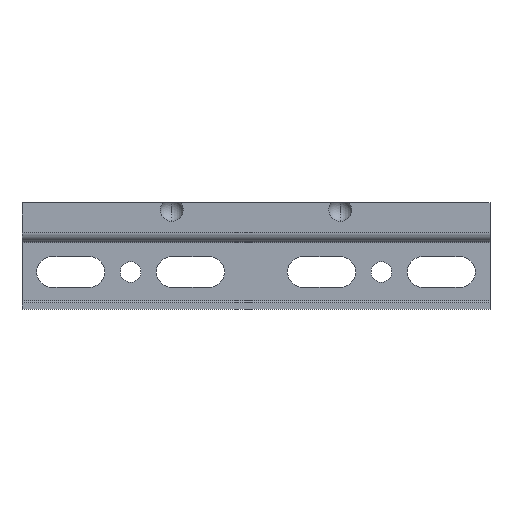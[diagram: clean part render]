
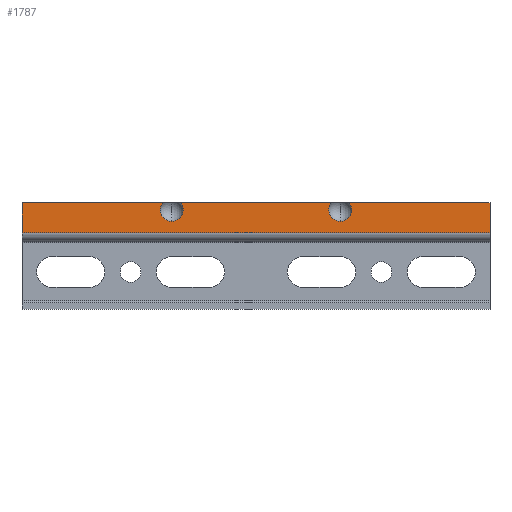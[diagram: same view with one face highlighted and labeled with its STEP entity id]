
A CAD part, top view. The second image highlights one B-rep face of the part: STEP entity #1787.
In plain terms, the highlighted planar face has unit normal (0, 0, 1).
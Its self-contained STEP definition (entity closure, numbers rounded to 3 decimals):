
#207 = CARTESIAN_POINT ( 'NONE',  ( -20.211, 28.5, 0.5 ) ) ;
#211 = CARTESIAN_POINT ( 'NONE',  ( -22.5, 23.46, 0.5 ) ) ;
#246 = CARTESIAN_POINT ( 'NONE',  ( 62.5, 28.5, 0.5 ) ) ;
#248 = CARTESIAN_POINT ( 'NONE',  ( 20.211, 28.5, 0.5 ) ) ;
#250 = CARTESIAN_POINT ( 'NONE',  ( -62.5, 20.5, 0.5 ) ) ;
#256 = CARTESIAN_POINT ( 'NONE',  ( 62.5, 20.5, 0.5 ) ) ;
#288 = CARTESIAN_POINT ( 'NONE',  ( -24.789, 28.5, 0.5 ) ) ;
#294 = EDGE_LOOP ( 'NONE', ( #729, #728, #727, #726, #725, #724, #723, #722, #721, #720 ) ) ;
#299 = CARTESIAN_POINT ( 'NONE',  ( -62.5, 28.5, 0.5 ) ) ;
#429 = VERTEX_POINT ( 'NONE', #299 ) ;
#438 = VERTEX_POINT ( 'NONE', #288 ) ;
#460 = VERTEX_POINT ( 'NONE', #256 ) ;
#465 = VERTEX_POINT ( 'NONE', #250 ) ;
#467 = VERTEX_POINT ( 'NONE', #248 ) ;
#469 = VERTEX_POINT ( 'NONE', #246 ) ;
#536 = VERTEX_POINT ( 'NONE', #211 ) ;
#538 = VERTEX_POINT ( 'NONE', #207 ) ;
#547 = VERTEX_POINT ( 'NONE', #1667 ) ;
#549 = VERTEX_POINT ( 'NONE', #1664 ) ;
#720 = ORIENTED_EDGE ( 'NONE', *, *, #916, .T. ) ;
#721 = ORIENTED_EDGE ( 'NONE', *, *, #1601, .T. ) ;
#722 = ORIENTED_EDGE ( 'NONE', *, *, #766, .T. ) ;
#723 = ORIENTED_EDGE ( 'NONE', *, *, #915, .F. ) ;
#724 = ORIENTED_EDGE ( 'NONE', *, *, #914, .F. ) ;
#725 = ORIENTED_EDGE ( 'NONE', *, *, #1767, .T. ) ;
#726 = ORIENTED_EDGE ( 'NONE', *, *, #911, .T. ) ;
#727 = ORIENTED_EDGE ( 'NONE', *, *, #913, .T. ) ;
#728 = ORIENTED_EDGE ( 'NONE', *, *, #1796, .T. ) ;
#729 = ORIENTED_EDGE ( 'NONE', *, *, #765, .T. ) ;
#765 = EDGE_CURVE ( 'NONE', #467, #538, #1661, .T. ) ;
#766 = EDGE_CURVE ( 'NONE', #469, #547, #1632, .T. ) ;
#821 = AXIS2_PLACEMENT_3D ( 'NONE', #942, #943, #944 ) ;
#823 = CIRCLE ( 'NONE', #821, 3.04 ) ;
#887 = VECTOR ( 'NONE', #1419, 1000. ) ;
#911 = EDGE_CURVE ( 'NONE', #438, #429, #1615, .T. ) ;
#913 = EDGE_CURVE ( 'NONE', #536, #438, #1892, .T. ) ;
#914 = EDGE_CURVE ( 'NONE', #460, #465, #1313, .T. ) ;
#915 = EDGE_CURVE ( 'NONE', #469, #460, #1317, .T. ) ;
#916 = EDGE_CURVE ( 'NONE', #549, #467, #1881, .T. ) ;
#942 = CARTESIAN_POINT ( 'NONE',  ( 22.5, 26.5, 0.5 ) ) ;
#943 = DIRECTION ( 'NONE',  ( 0., 0., -1. ) ) ;
#944 = DIRECTION ( 'NONE',  ( -1., 0., 0. ) ) ;
#1050 = PLANE ( 'NONE',  #1577 ) ;
#1051 = CARTESIAN_POINT ( 'NONE',  ( 62.5, 20., 0.5 ) ) ;
#1052 = DIRECTION ( 'NONE',  ( 0., 0., -1. ) ) ;
#1053 = DIRECTION ( 'NONE',  ( -1., 0., 0. ) ) ;
#1080 = CARTESIAN_POINT ( 'NONE',  ( -22.5, 26.5, 0.5 ) ) ;
#1081 = DIRECTION ( 'NONE',  ( 0., 0., -1. ) ) ;
#1082 = DIRECTION ( 'NONE',  ( -1., 0., 0. ) ) ;
#1311 = DIRECTION ( 'NONE',  ( -1., 0., 0. ) ) ;
#1312 = CARTESIAN_POINT ( 'NONE',  ( 62.5, 20.5, 0.5 ) ) ;
#1313 = LINE ( 'NONE', #1312, #1883 ) ;
#1317 = LINE ( 'NONE', #1323, #1885 ) ;
#1318 = CARTESIAN_POINT ( 'NONE',  ( -22.5, 26.5, 0.5 ) ) ;
#1319 = DIRECTION ( 'NONE',  ( 0., 0., -1. ) ) ;
#1320 = DIRECTION ( 'NONE',  ( -1., 0., 0. ) ) ;
#1322 = DIRECTION ( 'NONE',  ( -1., 0., 0. ) ) ;
#1323 = CARTESIAN_POINT ( 'NONE',  ( 62.5, 20., 0.5 ) ) ;
#1325 = DIRECTION ( 'NONE',  ( 0., -1., 0. ) ) ;
#1328 = CARTESIAN_POINT ( 'NONE',  ( 22.5, 26.5, 0.5 ) ) ;
#1329 = DIRECTION ( 'NONE',  ( 0., 0., -1. ) ) ;
#1330 = DIRECTION ( 'NONE',  ( -1., 0., 0. ) ) ;
#1409 = LINE ( 'NONE', #1418, #887 ) ;
#1418 = CARTESIAN_POINT ( 'NONE',  ( -62.5, 20., 0.5 ) ) ;
#1419 = DIRECTION ( 'NONE',  ( 0., -1., 0. ) ) ;
#1497 = FACE_OUTER_BOUND ( 'NONE', #294, .T. ) ;
#1563 = AXIS2_PLACEMENT_3D ( 'NONE', #1080, #1081, #1082 ) ;
#1567 = CIRCLE ( 'NONE', #1563, 3.04 ) ;
#1577 = AXIS2_PLACEMENT_3D ( 'NONE', #1051, #1052, #1053 ) ;
#1601 = EDGE_CURVE ( 'NONE', #547, #549, #823, .T. ) ;
#1615 = LINE ( 'NONE', #1656, #1888 ) ;
#1616 = DIRECTION ( 'NONE',  ( -1., 0., 0. ) ) ;
#1617 = CARTESIAN_POINT ( 'NONE',  ( 62.5, 28.5, 0.5 ) ) ;
#1632 = LINE ( 'NONE', #1617, #1899 ) ;
#1656 = CARTESIAN_POINT ( 'NONE',  ( 62.5, 28.5, 0.5 ) ) ;
#1658 = DIRECTION ( 'NONE',  ( -1., 0., 0. ) ) ;
#1659 = CARTESIAN_POINT ( 'NONE',  ( 62.5, 28.5, 0.5 ) ) ;
#1661 = LINE ( 'NONE', #1659, #1893 ) ;
#1664 = CARTESIAN_POINT ( 'NONE',  ( 22.5, 23.46, 0.5 ) ) ;
#1667 = CARTESIAN_POINT ( 'NONE',  ( 24.789, 28.5, 0.5 ) ) ;
#1767 = EDGE_CURVE ( 'NONE', #429, #465, #1409, .T. ) ;
#1787 = ADVANCED_FACE ( 'NONE', ( #1497 ), #1050, .F. ) ;
#1796 = EDGE_CURVE ( 'NONE', #538, #536, #1567, .T. ) ;
#1878 = AXIS2_PLACEMENT_3D ( 'NONE', #1328, #1329, #1330 ) ;
#1881 = CIRCLE ( 'NONE', #1878, 3.04 ) ;
#1882 = AXIS2_PLACEMENT_3D ( 'NONE', #1318, #1319, #1320 ) ;
#1883 = VECTOR ( 'NONE', #1322, 1000. ) ;
#1885 = VECTOR ( 'NONE', #1325, 1000. ) ;
#1888 = VECTOR ( 'NONE', #1311, 1000. ) ;
#1892 = CIRCLE ( 'NONE', #1882, 3.04 ) ;
#1893 = VECTOR ( 'NONE', #1658, 1000. ) ;
#1899 = VECTOR ( 'NONE', #1616, 1000. ) ;
